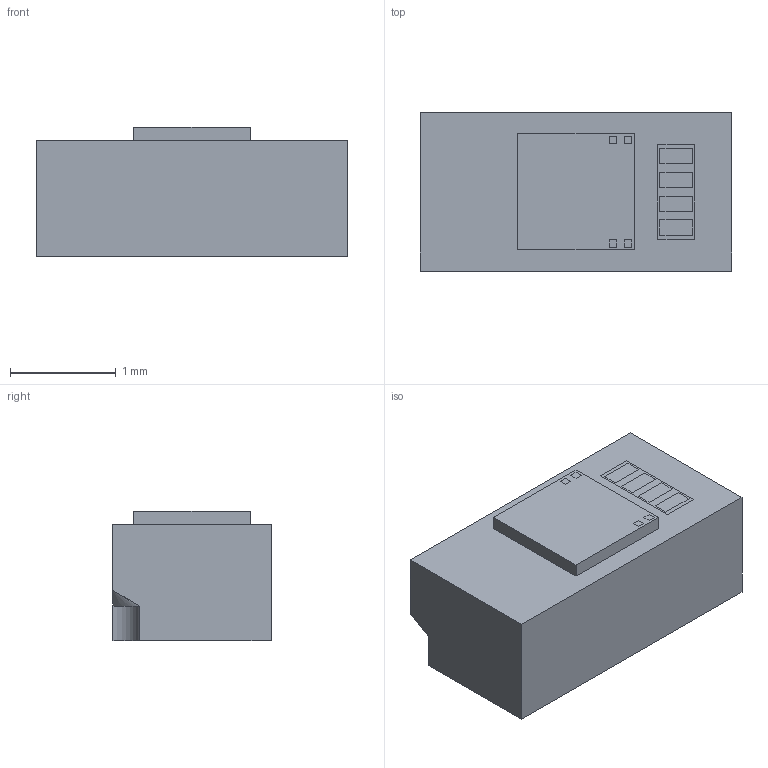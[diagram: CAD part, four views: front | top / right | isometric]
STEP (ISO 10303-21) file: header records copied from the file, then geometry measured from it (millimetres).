
FILE_DESCRIPTION(/* description */ ('','CAx-IF Rec.Pracs.---Representation and Presentation of Product Manufacturing Information (PMI)---4.0---2014-10-13'),/* implementation_level */ '2;1');
FILE_NAME(/* name */ 'velm3328_base.step',/* time_stamp */ '2025-02-19T18:34:31+01:00',/* author */ (''),/* organization */ (''),/* preprocessor_version */ 'ST-DEVELOPER v20',/* originating_system */ 'Autodesk Translation Framework v13.20.0.188',/* authorisation */ '');
FILE_SCHEMA (('AP242_MANAGED_MODEL_BASED_3D_ENGINEERING_MIM_LF { 1 0 10303 442 1 1 4 }'));
Length unit declared in the file: millimetre
Products named in the file (1): velm3328
Bounding box: 2.95 x 1.5 x 1.23 mm (x, y, z)
Volume: 4.9 mm3; surface area: 21.2 mm2
Topology: 10 solids, 10 shells, 118 faces, 270 edges, 178 vertices
Faces by surface type: plane 110, cone 4, cylinder 4
Entity records: 3306 total; most frequent: CARTESIAN_POINT 563, ORIENTED_EDGE 532, DIRECTION 512, EDGE_CURVE 266, LINE 258, VECTOR 258, VERTEX_POINT 178, EDGE_LOOP 128
